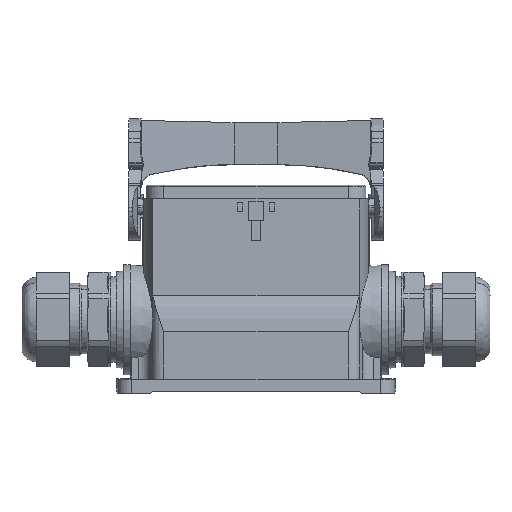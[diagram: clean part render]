
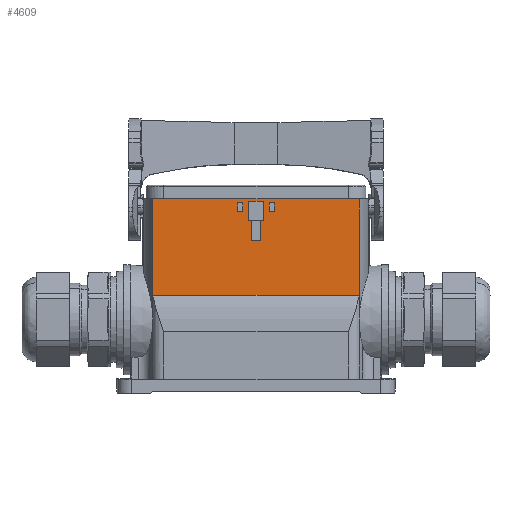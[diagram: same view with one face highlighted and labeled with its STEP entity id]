
A CAD part, front view. The second image highlights one B-rep face of the part: STEP entity #4609.
In plain terms, the highlighted planar face has unit normal (0, -1, 0).
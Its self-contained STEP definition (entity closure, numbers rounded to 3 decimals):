
#3988=FACE_BOUND('',#6268,.T.);
#3989=FACE_BOUND('',#6269,.T.);
#3990=FACE_BOUND('',#6270,.T.);
#3991=FACE_BOUND('',#6271,.T.);
#4609=ADVANCED_FACE('',(#3988,#3989,#3990,#3991),#5201,.T.);
#5201=PLANE('',#17838);
#6268=EDGE_LOOP('',(#7834,#7835,#7836,#7837));
#6269=EDGE_LOOP('',(#7838,#7839,#7840,#7841));
#6270=EDGE_LOOP('',(#7842,#7843,#7844,#7845,#7846,#7847,#7848,#7849));
#6271=EDGE_LOOP('',(#7850,#7851,#7852,#7853));
#7834=ORIENTED_EDGE('',*,*,#12006,.F.);
#7835=ORIENTED_EDGE('',*,*,#12007,.F.);
#7836=ORIENTED_EDGE('',*,*,#12008,.F.);
#7837=ORIENTED_EDGE('',*,*,#12009,.F.);
#7838=ORIENTED_EDGE('',*,*,#12010,.F.);
#7839=ORIENTED_EDGE('',*,*,#12011,.T.);
#7840=ORIENTED_EDGE('',*,*,#11831,.T.);
#7841=ORIENTED_EDGE('',*,*,#12012,.T.);
#7842=ORIENTED_EDGE('',*,*,#12013,.T.);
#7843=ORIENTED_EDGE('',*,*,#12014,.T.);
#7844=ORIENTED_EDGE('',*,*,#12015,.T.);
#7845=ORIENTED_EDGE('',*,*,#12016,.T.);
#7846=ORIENTED_EDGE('',*,*,#12017,.T.);
#7847=ORIENTED_EDGE('',*,*,#12018,.T.);
#7848=ORIENTED_EDGE('',*,*,#12019,.T.);
#7849=ORIENTED_EDGE('',*,*,#12020,.T.);
#7850=ORIENTED_EDGE('',*,*,#12021,.F.);
#7851=ORIENTED_EDGE('',*,*,#12022,.F.);
#7852=ORIENTED_EDGE('',*,*,#12023,.F.);
#7853=ORIENTED_EDGE('',*,*,#12024,.F.);
#10582=VERTEX_POINT('',#23781);
#10583=VERTEX_POINT('',#23783);
#10740=VERTEX_POINT('',#24193);
#10741=VERTEX_POINT('',#24194);
#10742=VERTEX_POINT('',#24196);
#10743=VERTEX_POINT('',#24198);
#10744=VERTEX_POINT('',#24201);
#10745=VERTEX_POINT('',#24202);
#10746=VERTEX_POINT('',#24206);
#10747=VERTEX_POINT('',#24207);
#10748=VERTEX_POINT('',#24209);
#10749=VERTEX_POINT('',#24211);
#10750=VERTEX_POINT('',#24213);
#10751=VERTEX_POINT('',#24215);
#10752=VERTEX_POINT('',#24217);
#10753=VERTEX_POINT('',#24219);
#10754=VERTEX_POINT('',#24222);
#10755=VERTEX_POINT('',#24223);
#10756=VERTEX_POINT('',#24225);
#10757=VERTEX_POINT('',#24227);
#11831=EDGE_CURVE('',#10583,#10582,#14425,.T.);
#12006=EDGE_CURVE('',#10740,#10741,#14528,.T.);
#12007=EDGE_CURVE('',#10742,#10740,#14529,.T.);
#12008=EDGE_CURVE('',#10743,#10742,#14530,.T.);
#12009=EDGE_CURVE('',#10741,#10743,#14531,.T.);
#12010=EDGE_CURVE('',#10744,#10745,#14532,.T.);
#12011=EDGE_CURVE('',#10744,#10583,#14533,.T.);
#12012=EDGE_CURVE('',#10582,#10745,#14534,.T.);
#12013=EDGE_CURVE('',#10746,#10747,#14535,.T.);
#12014=EDGE_CURVE('',#10747,#10748,#14536,.T.);
#12015=EDGE_CURVE('',#10748,#10749,#14537,.T.);
#12016=EDGE_CURVE('',#10749,#10750,#14538,.T.);
#12017=EDGE_CURVE('',#10750,#10751,#14539,.T.);
#12018=EDGE_CURVE('',#10751,#10752,#14540,.T.);
#12019=EDGE_CURVE('',#10752,#10753,#14541,.T.);
#12020=EDGE_CURVE('',#10753,#10746,#14542,.T.);
#12021=EDGE_CURVE('',#10754,#10755,#14543,.T.);
#12022=EDGE_CURVE('',#10756,#10754,#14544,.T.);
#12023=EDGE_CURVE('',#10757,#10756,#14545,.T.);
#12024=EDGE_CURVE('',#10755,#10757,#14546,.T.);
#14425=LINE('',#23782,#15661);
#14528=LINE('',#24192,#15764);
#14529=LINE('',#24195,#15765);
#14530=LINE('',#24197,#15766);
#14531=LINE('',#24199,#15767);
#14532=LINE('',#24200,#15768);
#14533=LINE('',#24203,#15769);
#14534=LINE('',#24204,#15770);
#14535=LINE('',#24205,#15771);
#14536=LINE('',#24208,#15772);
#14537=LINE('',#24210,#15773);
#14538=LINE('',#24212,#15774);
#14539=LINE('',#24214,#15775);
#14540=LINE('',#24216,#15776);
#14541=LINE('',#24218,#15777);
#14542=LINE('',#24220,#15778);
#14543=LINE('',#24221,#15779);
#14544=LINE('',#24224,#15780);
#14545=LINE('',#24226,#15781);
#14546=LINE('',#24228,#15782);
#15661=VECTOR('',#19602,1.);
#15764=VECTOR('',#19869,1.);
#15765=VECTOR('',#19870,1.);
#15766=VECTOR('',#19871,1.);
#15767=VECTOR('',#19872,1.);
#15768=VECTOR('',#19873,1.);
#15769=VECTOR('',#19874,1.);
#15770=VECTOR('',#19875,1.);
#15771=VECTOR('',#19876,1.);
#15772=VECTOR('',#19877,1.);
#15773=VECTOR('',#19878,1.);
#15774=VECTOR('',#19879,1.);
#15775=VECTOR('',#19880,1.);
#15776=VECTOR('',#19881,1.);
#15777=VECTOR('',#19882,1.);
#15778=VECTOR('',#19883,1.);
#15779=VECTOR('',#19884,1.);
#15780=VECTOR('',#19885,1.);
#15781=VECTOR('',#19886,1.);
#15782=VECTOR('',#19887,1.);
#17838=AXIS2_PLACEMENT_3D('',#24229,#19888,#19889);
#19602=DIRECTION('',(-1.,0.,0.));
#19869=DIRECTION('',(0.,0.,1.));
#19870=DIRECTION('',(1.,0.,0.));
#19871=DIRECTION('',(0.,0.,-1.));
#19872=DIRECTION('',(-1.,0.,0.));
#19873=DIRECTION('',(-1.,0.,0.));
#19874=DIRECTION('',(0.,0.,1.));
#19875=DIRECTION('',(0.,0.,-1.));
#19876=DIRECTION('',(0.017,0.,-1.));
#19877=DIRECTION('',(-1.,0.,0.));
#19878=DIRECTION('',(0.,0.,-1.));
#19879=DIRECTION('',(-1.,0.,0.));
#19880=DIRECTION('',(0.,0.,1.));
#19881=DIRECTION('',(-1.,0.,0.));
#19882=DIRECTION('',(0.017,0.,1.));
#19883=DIRECTION('',(1.,0.,0.));
#19884=DIRECTION('',(1.,0.,0.));
#19885=DIRECTION('',(0.,0.,-1.));
#19886=DIRECTION('',(-1.,0.,0.));
#19887=DIRECTION('',(0.,0.,1.));
#19888=DIRECTION('',(0.,-1.,0.));
#19889=DIRECTION('',(-1.,0.,0.));
#23781=CARTESIAN_POINT('',(-43.6,-22.5,5.7));
#23782=CARTESIAN_POINT('',(0.,-22.5,5.7));
#23783=CARTESIAN_POINT('',(43.6,-22.5,5.7));
#24192=CARTESIAN_POINT('',(-5.5,-22.5,5.7));
#24193=CARTESIAN_POINT('',(-5.5,-22.5,0.6));
#24194=CARTESIAN_POINT('',(-5.5,-22.5,4.));
#24195=CARTESIAN_POINT('',(-7.7,-22.5,0.6));
#24196=CARTESIAN_POINT('',(-7.7,-22.5,0.6));
#24197=CARTESIAN_POINT('',(-7.7,-22.5,4.));
#24198=CARTESIAN_POINT('',(-7.7,-22.5,4.));
#24199=CARTESIAN_POINT('',(-5.5,-22.5,4.));
#24200=CARTESIAN_POINT('',(43.6,-22.5,-35.001));
#24201=CARTESIAN_POINT('',(43.6,-22.5,-35.001));
#24202=CARTESIAN_POINT('',(-43.6,-22.5,-35.001));
#24203=CARTESIAN_POINT('',(43.6,-22.5,5.7));
#24204=CARTESIAN_POINT('',(-43.6,-22.5,5.7));
#24205=CARTESIAN_POINT('',(2.047,-22.5,-5.964));
#24206=CARTESIAN_POINT('',(1.86,-22.5,4.75));
#24207=CARTESIAN_POINT('',(2.001,-22.5,-3.285));
#24208=CARTESIAN_POINT('',(0.,-22.5,-3.285));
#24209=CARTESIAN_POINT('',(2.,-22.5,-3.285));
#24210=CARTESIAN_POINT('',(2.,-22.5,-6.));
#24211=CARTESIAN_POINT('',(2.,-22.5,-11.95));
#24212=CARTESIAN_POINT('',(0.,-22.5,-11.95));
#24213=CARTESIAN_POINT('',(-2.,-22.5,-11.95));
#24214=CARTESIAN_POINT('',(-2.,-22.5,-6.));
#24215=CARTESIAN_POINT('',(-2.,-22.5,-3.285));
#24216=CARTESIAN_POINT('',(0.,-22.5,-3.285));
#24217=CARTESIAN_POINT('',(-2.001,-22.5,-3.285));
#24218=CARTESIAN_POINT('',(-2.047,-22.5,-5.964));
#24219=CARTESIAN_POINT('',(-1.86,-22.5,4.75));
#24220=CARTESIAN_POINT('',(-2.,-22.5,4.75));
#24221=CARTESIAN_POINT('',(5.5,-22.5,0.6));
#24222=CARTESIAN_POINT('',(5.5,-22.5,0.6));
#24223=CARTESIAN_POINT('',(7.7,-22.5,0.6));
#24224=CARTESIAN_POINT('',(5.5,-22.5,4.));
#24225=CARTESIAN_POINT('',(5.5,-22.5,4.));
#24226=CARTESIAN_POINT('',(7.7,-22.5,4.));
#24227=CARTESIAN_POINT('',(7.7,-22.5,4.));
#24228=CARTESIAN_POINT('',(7.7,-22.5,0.6));
#24229=CARTESIAN_POINT('',(0.,-22.5,5.7));
